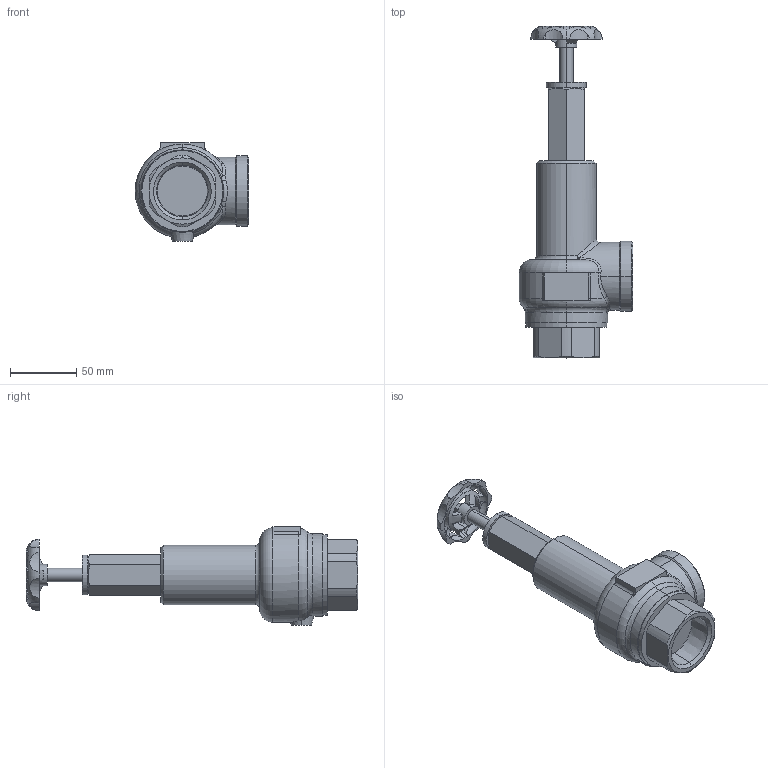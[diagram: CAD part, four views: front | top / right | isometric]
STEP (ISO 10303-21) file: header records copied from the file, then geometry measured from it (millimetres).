
FILE_DESCRIPTION (( 'STEP AP203' ), '1' );
FILE_NAME ('AL-150TR 32A.STEP', '2026-01-08T01:12:37', ( '' ), ( '' ), 'SwSTEP 2.0', 'SolidWorks 2024', '' );
FILE_SCHEMA (( 'CONFIG_CONTROL_DESIGN' ));
Length unit declared in the file: millimetre
Products named in the file (1): AL-150TR 32A
Bounding box: 85.5 x 250 x 74.5 mm (x, y, z)
Volume: 404030.8 mm3; surface area: 52699.6 mm2
Topology: 1 solids, 1 shells, 174 faces, 474 edges, 296 vertices
Faces by surface type: plane 62, cylinder 52, cone 30, torus 16, bspline 12, sphere 2
Entity records: 7743 total; most frequent: CARTESIAN_POINT 3399, ORIENTED_EDGE 944, DIRECTION 854, EDGE_CURVE 472, AXIS2_PLACEMENT_3D 349, VERTEX_POINT 296, EDGE_LOOP 192, CIRCLE 186
